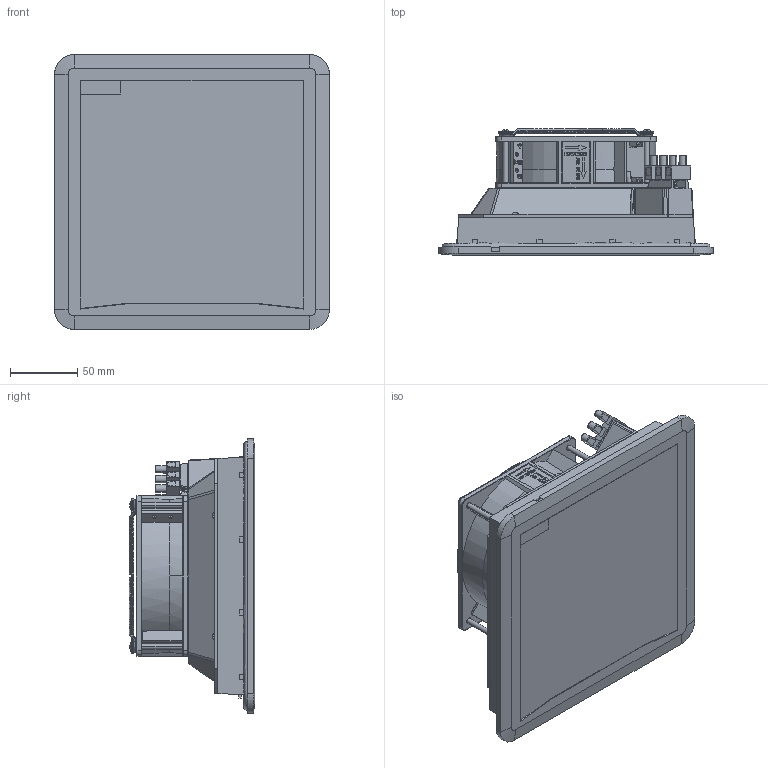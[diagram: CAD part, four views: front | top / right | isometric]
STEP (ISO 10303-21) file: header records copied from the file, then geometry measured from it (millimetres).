
FILE_DESCRIPTION(/* description */ (''),/* implementation_level */ '2;1');
FILE_NAME(/* name */ 'FP61D6~1',/* time_stamp */ '2019-06-25T11:25:16+02:00',/* author */ (''),/* organization */ (''),/* preprocessor_version */ 'ST-DEVELOPER v14',/* originating_system */ '',/* authorisation */ '');
FILE_SCHEMA (('CONFIG_CONTROL_DESIGN'));
Length unit declared in the file: millimetre
Products named in the file (1): Document
Bounding box: 204 x 93.5 x 204 mm (x, y, z)
Volume: 25717.7 mm3; surface area: 161424.6 mm2
Topology: 16 solids, 21 shells, 1323 faces, 3665 edges, 2397 vertices
Faces by surface type: plane 976, bspline 347
Entity records: 72318 total; most frequent: CARTESIAN_POINT 48977, ORIENTED_EDGE 7153, EDGE_CURVE 3662, B_SPLINE_CURVE_WITH_KNOTS 2853, VERTEX_POINT 2397, EDGE_LOOP 1444, ADVANCED_FACE 1323, FACE_OUTER_BOUND 1323
